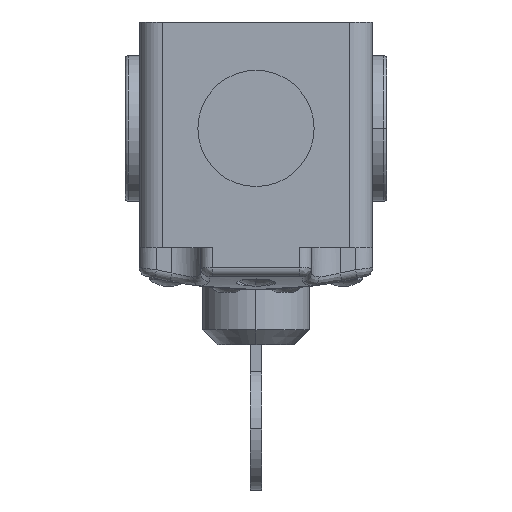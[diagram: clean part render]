
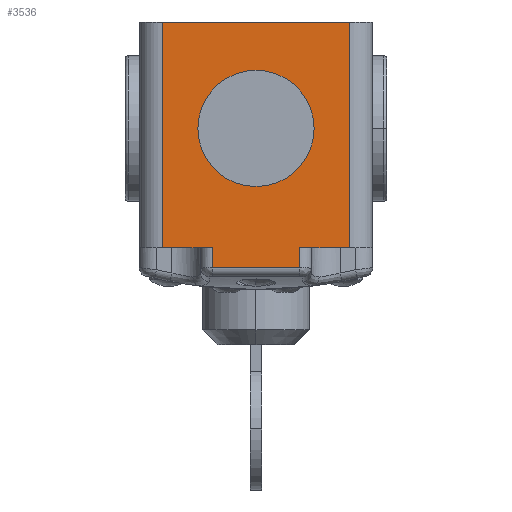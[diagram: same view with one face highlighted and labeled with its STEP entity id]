
A CAD part, left-side view. The second image highlights one B-rep face of the part: STEP entity #3536.
In plain terms, the highlighted planar face has unit normal (-1, 0, 0).
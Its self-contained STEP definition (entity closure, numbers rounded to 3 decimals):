
#327 = VERTEX_POINT ( 'NONE', #6773 ) ;
#331 = EDGE_CURVE ( 'NONE', #327, #332, #6768, .T. ) ;
#332 = VERTEX_POINT ( 'NONE', #6763 ) ;
#3163 = EDGE_CURVE ( 'NONE', #3190, #3164, #12132, .T. ) ;
#3164 = VERTEX_POINT ( 'NONE', #12128 ) ;
#3190 = VERTEX_POINT ( 'NONE', #12213 ) ;
#3495 = VERTEX_POINT ( 'NONE', #13139 ) ;
#3497 = EDGE_CURVE ( 'NONE', #3498, #3495, #13138, .T. ) ;
#3498 = VERTEX_POINT ( 'NONE', #13134 ) ;
#3519 = ORIENTED_EDGE ( 'NONE', *, *, #3520, .F. ) ;
#3520 = EDGE_CURVE ( 'NONE', #3521, #3544, #13164, .T. ) ;
#3521 = VERTEX_POINT ( 'NONE', #13225 ) ;
#3522 = ORIENTED_EDGE ( 'NONE', *, *, #3523, .F. ) ;
#3523 = EDGE_CURVE ( 'NONE', #3164, #3521, #13224, .T. ) ;
#3524 = ORIENTED_EDGE ( 'NONE', *, *, #3163, .F. ) ;
#3525 = ORIENTED_EDGE ( 'NONE', *, *, #3534, .T. ) ;
#3526 = ORIENTED_EDGE ( 'NONE', *, *, #3497, .T. ) ;
#3527 = ORIENTED_EDGE ( 'NONE', *, *, #3528, .F. ) ;
#3528 = EDGE_CURVE ( 'NONE', #3540, #3495, #13220, .T. ) ;
#3529 = EDGE_LOOP ( 'NONE', ( #3530, #3588 ) ) ;
#3530 = ORIENTED_EDGE ( 'NONE', *, *, #3587, .F. ) ;
#3534 = EDGE_CURVE ( 'NONE', #3190, #3498, #13216, .T. ) ;
#3536 = ADVANCED_FACE ( 'NONE', ( #13212, #13211 ), #13210, .F. ) ;
#3537 = EDGE_LOOP ( 'NONE', ( #3538, #3542, #3519, #3522, #3524, #3525, #3526, #3527 ) ) ;
#3538 = ORIENTED_EDGE ( 'NONE', *, *, #3539, .T. ) ;
#3539 = EDGE_CURVE ( 'NONE', #3540, #3541, #13208, .T. ) ;
#3540 = VERTEX_POINT ( 'NONE', #13201 ) ;
#3541 = VERTEX_POINT ( 'NONE', #13200 ) ;
#3542 = ORIENTED_EDGE ( 'NONE', *, *, #3543, .T. ) ;
#3543 = EDGE_CURVE ( 'NONE', #3541, #3544, #13199, .T. ) ;
#3544 = VERTEX_POINT ( 'NONE', #13195 ) ;
#3587 = EDGE_CURVE ( 'NONE', #332, #327, #13313, .T. ) ;
#3588 = ORIENTED_EDGE ( 'NONE', *, *, #331, .F. ) ;
#6763 = CARTESIAN_POINT ( 'NONE',  ( -149.4, -10., 2. ) ) ;
#6764 = DIRECTION ( 'NONE',  ( 0., -1., 0. ) ) ;
#6765 = DIRECTION ( 'NONE',  ( -1., 0., 0. ) ) ;
#6766 = CARTESIAN_POINT ( 'NONE',  ( -149.4, 0., 2. ) ) ;
#6767 = AXIS2_PLACEMENT_3D ( 'NONE', #6766, #6765, #6764 ) ;
#6768 = CIRCLE ( 'NONE', #6767, 10. ) ;
#6773 = CARTESIAN_POINT ( 'NONE',  ( -149.4, 10., 2. ) ) ;
#12128 = CARTESIAN_POINT ( 'NONE',  ( -149.4, -16.1, 20.3 ) ) ;
#12129 = DIRECTION ( 'NONE',  ( 0., -1., 0. ) ) ;
#12130 = VECTOR ( 'NONE', #12129, 1000. ) ;
#12131 = CARTESIAN_POINT ( 'NONE',  ( -149.4, 0., 20.3 ) ) ;
#12132 = LINE ( 'NONE', #12131, #12130 ) ;
#12213 = CARTESIAN_POINT ( 'NONE',  ( -149.4, 16.1, 20.3 ) ) ;
#13134 = CARTESIAN_POINT ( 'NONE',  ( -149.4, 16.1, -18.5 ) ) ;
#13135 = DIRECTION ( 'NONE',  ( 0., -1., 0. ) ) ;
#13136 = VECTOR ( 'NONE', #13135, 1000. ) ;
#13137 = CARTESIAN_POINT ( 'NONE',  ( -149.4, 0., -18.5 ) ) ;
#13138 = LINE ( 'NONE', #13137, #13136 ) ;
#13139 = CARTESIAN_POINT ( 'NONE',  ( -149.4, 7.5, -18.5 ) ) ;
#13161 = DIRECTION ( 'NONE',  ( 0., 1., 0. ) ) ;
#13162 = VECTOR ( 'NONE', #13161, 1000. ) ;
#13163 = CARTESIAN_POINT ( 'NONE',  ( -149.4, 0., -18.5 ) ) ;
#13164 = LINE ( 'NONE', #13163, #13162 ) ;
#13195 = CARTESIAN_POINT ( 'NONE',  ( -149.4, -7.5, -18.5 ) ) ;
#13196 = DIRECTION ( 'NONE',  ( 0., 0., 1. ) ) ;
#13197 = VECTOR ( 'NONE', #13196, 1000. ) ;
#13198 = CARTESIAN_POINT ( 'NONE',  ( -149.4, -7.5, -25.7 ) ) ;
#13199 = LINE ( 'NONE', #13198, #13197 ) ;
#13200 = CARTESIAN_POINT ( 'NONE',  ( -149.4, -7.5, -21.965 ) ) ;
#13201 = CARTESIAN_POINT ( 'NONE',  ( -149.4, 7.5, -21.965 ) ) ;
#13202 = DIRECTION ( 'NONE',  ( 0., -1., 0. ) ) ;
#13203 = VECTOR ( 'NONE', #13202, 1000. ) ;
#13204 = CARTESIAN_POINT ( 'NONE',  ( -149.4, 0., -21.965 ) ) ;
#13205 = DIRECTION ( 'NONE',  ( 0., 1., 0. ) ) ;
#13206 = DIRECTION ( 'NONE',  ( 1., 0., 0. ) ) ;
#13207 = AXIS2_PLACEMENT_3D ( 'NONE', #13209, #13206, #13205 ) ;
#13208 = LINE ( 'NONE', #13204, #13203 ) ;
#13209 = CARTESIAN_POINT ( 'NONE',  ( -149.4, 0., 20.3 ) ) ;
#13210 = PLANE ( 'NONE',  #13207 ) ;
#13211 = FACE_BOUND ( 'NONE', #3529, .T. ) ;
#13212 = FACE_OUTER_BOUND ( 'NONE', #3537, .T. ) ;
#13213 = DIRECTION ( 'NONE',  ( 0., 0., -1. ) ) ;
#13214 = VECTOR ( 'NONE', #13213, 1000. ) ;
#13215 = CARTESIAN_POINT ( 'NONE',  ( -149.4, 16.1, 20.3 ) ) ;
#13216 = LINE ( 'NONE', #13215, #13214 ) ;
#13217 = DIRECTION ( 'NONE',  ( 0., 0., 1. ) ) ;
#13218 = VECTOR ( 'NONE', #13217, 1000. ) ;
#13219 = CARTESIAN_POINT ( 'NONE',  ( -149.4, 7.5, -25.7 ) ) ;
#13220 = LINE ( 'NONE', #13219, #13218 ) ;
#13221 = DIRECTION ( 'NONE',  ( 0., 0., -1. ) ) ;
#13222 = VECTOR ( 'NONE', #13221, 1000. ) ;
#13223 = CARTESIAN_POINT ( 'NONE',  ( -149.4, -16.1, 20.3 ) ) ;
#13224 = LINE ( 'NONE', #13223, #13222 ) ;
#13225 = CARTESIAN_POINT ( 'NONE',  ( -149.4, -16.1, -18.5 ) ) ;
#13305 = DIRECTION ( 'NONE',  ( 0., -1., 0. ) ) ;
#13306 = DIRECTION ( 'NONE',  ( -1., 0., 0. ) ) ;
#13307 = CARTESIAN_POINT ( 'NONE',  ( -149.4, 0., 2. ) ) ;
#13308 = AXIS2_PLACEMENT_3D ( 'NONE', #13307, #13306, #13305 ) ;
#13313 = CIRCLE ( 'NONE', #13308, 10. ) ;
